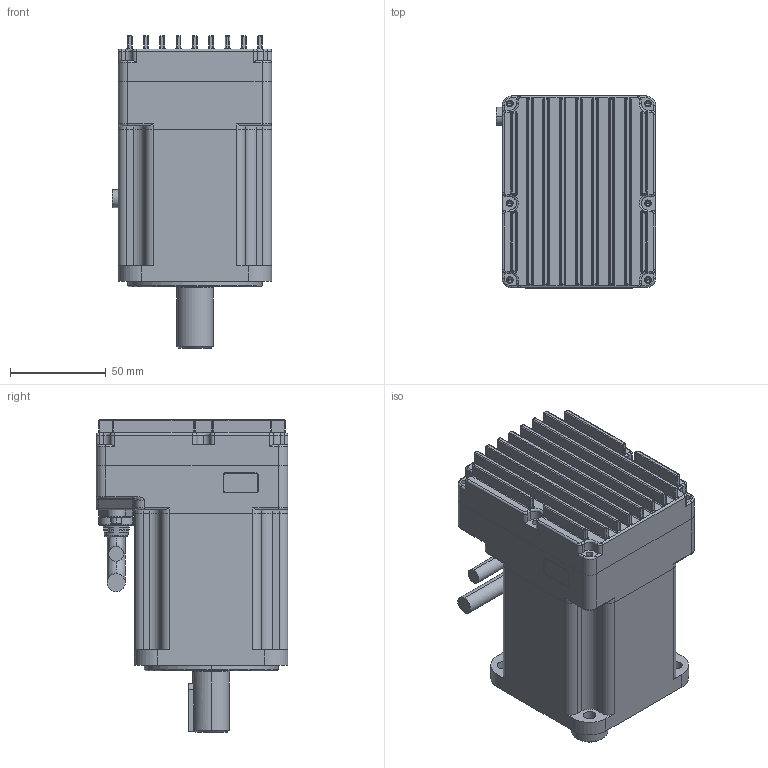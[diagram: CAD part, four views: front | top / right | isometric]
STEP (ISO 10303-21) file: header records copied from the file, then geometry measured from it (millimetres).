
FILE_DESCRIPTION((''),'2;1');
FILE_NAME('000-ISMK80-WAK-AA','2023-11-16T11:15:41',('RD0060'),(''),'CREO PARAMETRIC BY PTC INC, 2016510','CREO PARAMETRIC BY PTC INC, 2016510','');
FILE_SCHEMA(('CONFIG_CONTROL_DESIGN'));
Products named in the file (1): 000-ISMK80-WAK-AA
Bounding box: 83 x 100 x 163 mm (x, y, z)
Surface area: 148227.3 mm2 (no closed solid volume)
Topology: 0 solids, 41 shells, 1714 faces, 4313 edges, 2514 vertices
Faces by surface type: cylinder 668, plane 483, torus 230, sphere 159, cone 108, bspline 66
Entity records: 56586 total; most frequent: CARTESIAN_POINT 16411, DIRECTION 8847, ORIENTED_EDGE 8224, EDGE_CURVE 4112, AXIS2_PLACEMENT_3D 3605, VERTEX_POINT 2514, CIRCLE 1957, EDGE_LOOP 1838
